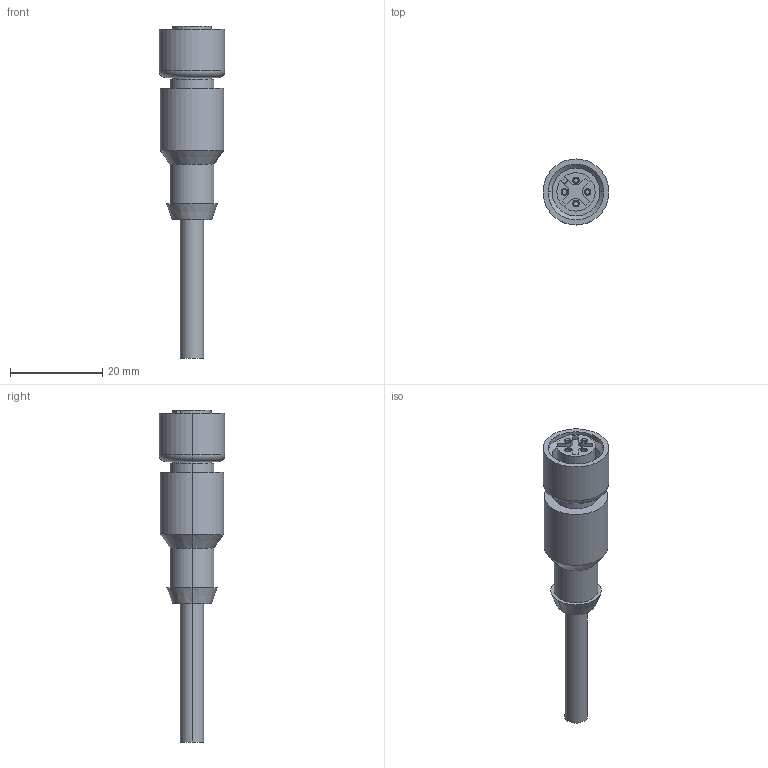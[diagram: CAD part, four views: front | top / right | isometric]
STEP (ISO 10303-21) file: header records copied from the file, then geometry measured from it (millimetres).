
FILE_DESCRIPTION (( 'STEP AP203' ), '1' );
FILE_NAME ('KSTG M12.STEP', '2020-10-16T07:23:36', ( '' ), ( '' ), 'SwSTEP 2.0', 'SolidWorks 2020', '' );
FILE_SCHEMA (( 'CONFIG_CONTROL_DESIGN' ));
Length unit declared in the file: millimetre
Products named in the file (4): Rändelmutter.ipt; Zusammenbau KSTG-X.iam; KSTG M12; Gehäusekorpus.ipt
Assembly tree (3 placements, depth 3):
  KSTG M12
    Zusammenbau KSTG-X.iam
      Gehäusekorpus.ipt
      Rändelmutter.ipt
Bounding box: 14.3 x 14.3 x 72 mm (x, y, z)
Volume: 5254.2 mm3; surface area: 3352.7 mm2
Topology: 2 solids, 2 shells, 75 faces, 168 edges, 106 vertices
Faces by surface type: cylinder 34, plane 25, cone 14, torus 2
Entity records: 2524 total; most frequent: DIRECTION 416, CARTESIAN_POINT 356, ORIENTED_EDGE 336, EDGE_CURVE 168, AXIS2_PLACEMENT_3D 166, VERTEX_POINT 106, EDGE_LOOP 86, VECTOR 84
